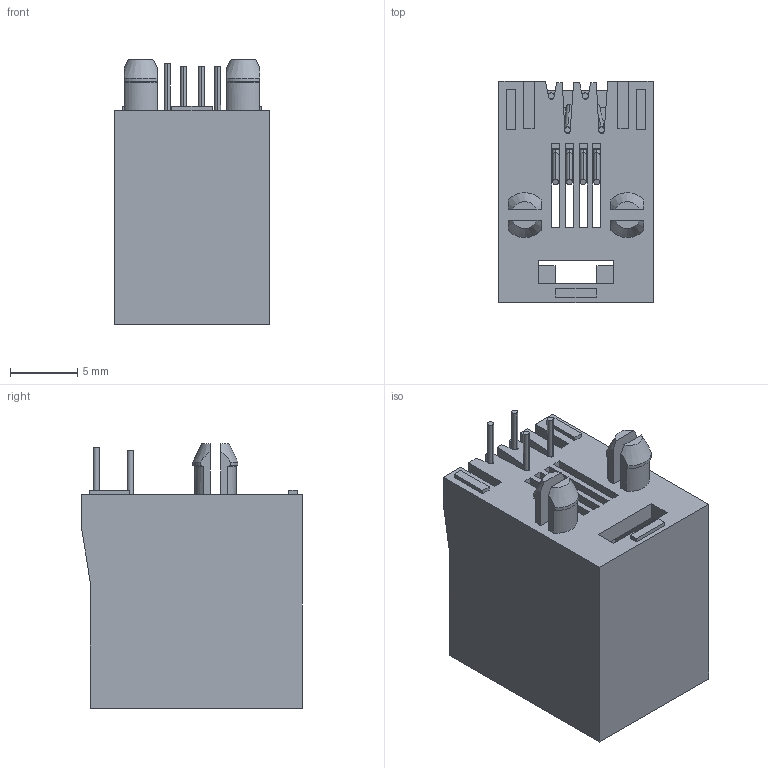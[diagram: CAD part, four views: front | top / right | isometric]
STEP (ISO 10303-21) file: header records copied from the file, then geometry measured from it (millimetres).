
FILE_DESCRIPTION((''),'2;1');
FILE_NAME('DGKYD52221144IWA1DY1017','2024-08-31T14:11:52',('DGKYD'),(''),'CREO PARAMETRIC BY PTC INC, 2019010','CREO PARAMETRIC BY PTC INC, 2019010','');
FILE_SCHEMA(('CONFIG_CONTROL_DESIGN'));
Length unit declared in the file: millimetre
Products named in the file (1): DGKYD52221144IWA1DY1017
Bounding box: 11.5 x 16.45 x 19.75 mm (x, y, z)
Volume: 1699.8 mm3; surface area: 2324.2 mm2
Topology: 1 solids, 5 shells, 301 faces, 855 edges, 556 vertices
Faces by surface type: plane 217, cylinder 44, torus 24, cone 8, bspline 8
Entity records: 10215 total; most frequent: CARTESIAN_POINT 2311, ORIENTED_EDGE 1694, DIRECTION 1555, EDGE_CURVE 855, VECTOR 617, LINE 617, VERTEX_POINT 556, AXIS2_PLACEMENT_3D 469
